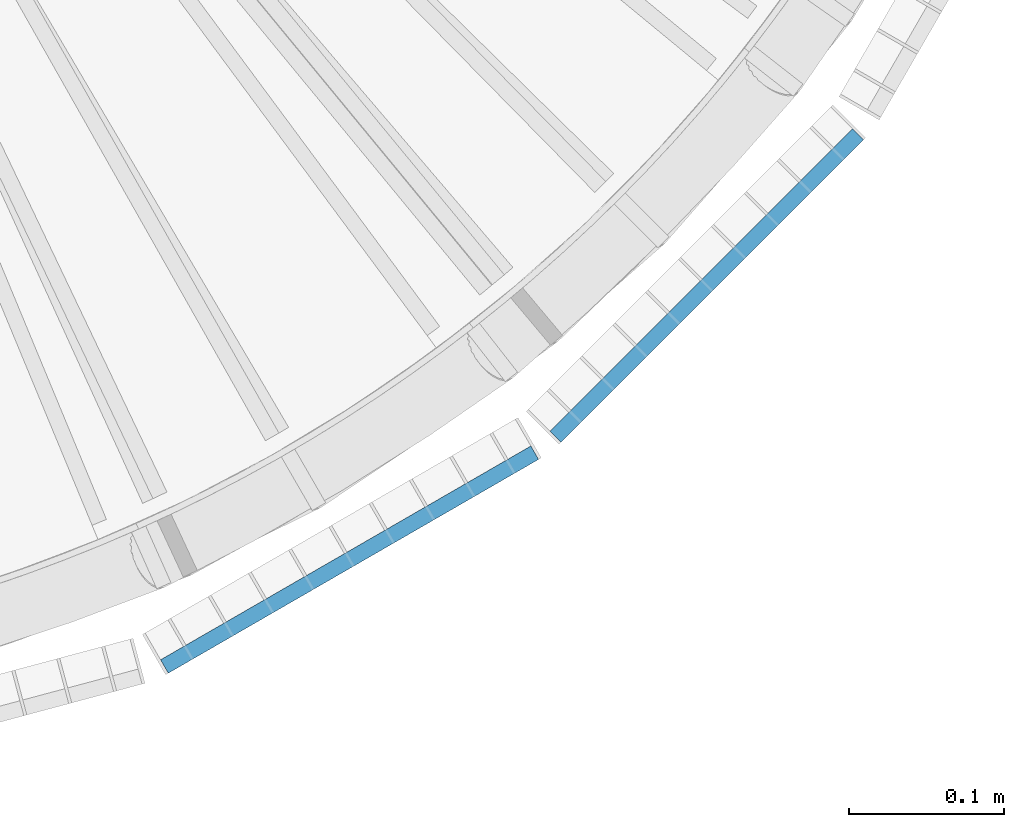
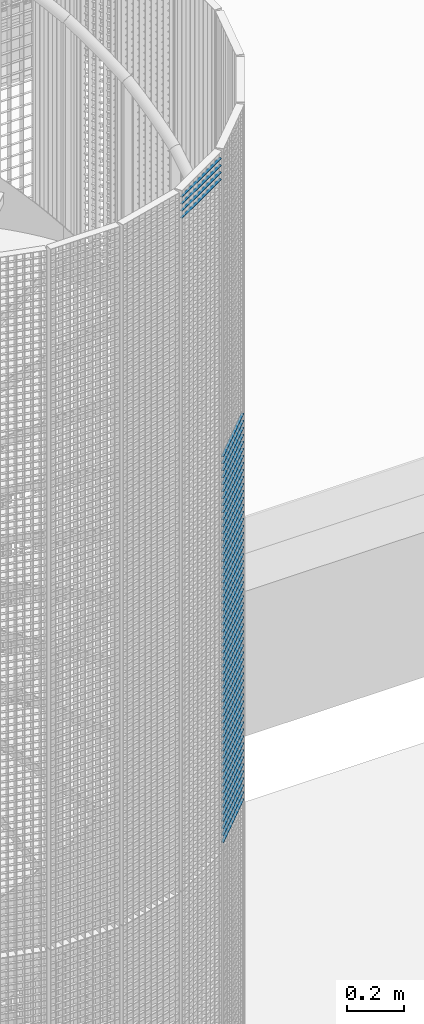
# One storey, part 224 of 1148: 60 beams, 2 elements without a shape of their own.
"""IFC2X3 building model written with IfcOpenShell, lengths in millimetres."""

from ifc_helpers import new_model, si_unit, frame, origin_with_axes, origin_2d_with_axis, place, context, subcontext, project, spatial, rectangle, extrude, material, type_object, element, aggregate, save


model = new_model("IFC2X3")

# Units and contexts
model_context = context("Model", 3, precision=1e-05, world=origin_with_axes())
body_context = subcontext(model_context, "Body", "Model", "MODEL_VIEW")
ifc_project = project(units=[si_unit("LENGTHUNIT", "METRE", prefix="MILLI"), si_unit("AREAUNIT", "SQUARE_METRE"), si_unit("VOLUMEUNIT", "CUBIC_METRE"), si_unit("MASSUNIT", "GRAM", prefix="KILO"), si_unit("TIMEUNIT", "SECOND"), si_unit("PLANEANGLEUNIT", "RADIAN"), si_unit("SOLIDANGLEUNIT", "STERADIAN"), si_unit("THERMODYNAMICTEMPERATUREUNIT", "DEGREE_CELSIUS"), si_unit("LUMINOUSINTENSITYUNIT", "LUMEN")], contexts=[model_context])

# Site, building, storey
site_placement = place(None, origin_with_axes())
site = spatial("IfcSite", under=ifc_project, at=site_placement, Name="Undefined", CompositionType="ELEMENT")
building_placement = place(site_placement, origin_with_axes())
building = spatial("IfcBuilding", under=site, at=building_placement, Name="Undefined", CompositionType="ELEMENT")
storey_placement = place(building_placement, origin_with_axes())
storey = spatial("IfcBuildingStorey", under=building, at=storey_placement, Name="Undefined", CompositionType="ELEMENT", Elevation=0.0)

# Assembly, beams
assembly_1_placement = place(storey_placement, origin_with_axes())
assembly_1 = element("IfcElementAssembly", 1, at=assembly_1_placement, inside=storey, Name="BORDURE", AssemblyPlace="NOTDEFINED", PredefinedType="NOTDEFINED")
ifc_material = material(Name="STEEL/S235JR")
beam_type = type_object("IfcBeamType", Name="PL2*10", PredefinedType="NOTDEFINED")
beam_1_placement = place(assembly_1_placement, frame((689.771348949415, -884.927168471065, 16680.0), z_axis=(0.707106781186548, -0.707106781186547, 0.0), x_axis=(0.707106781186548, 0.707106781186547, 0.0)))
beam_1 = element("IfcBeam", 2, at=beam_1_placement, type_object=beam_type, material=ifc_material, Name="ENTRETOISE", context=body_context, shape_type="SweptSolid", body=[
    extrude(rectangle(XDim=2.0, YDim=10.0, at=origin_2d_with_axis()), frame((275.999999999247, 9.09494701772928e-13, 1.53210777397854e-14), z_axis=(-1.0, 0.0, 0.0), x_axis=(0.0, -1.0, 0.0)), (0.0, 0.0, 1.0), 276.0),
])
beam_2_placement = place(assembly_1_placement, frame((689.771348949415, -884.927168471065, 16650.0), z_axis=(0.707106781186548, -0.707106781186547, 0.0), x_axis=(0.707106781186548, 0.707106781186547, 0.0)))
beam_2 = element("IfcBeam", 3, at=beam_2_placement, type_object=beam_type, material=ifc_material, Name="ENTRETOISE", context=body_context, shape_type="SweptSolid", body=[
    extrude(rectangle(XDim=2.0, YDim=10.0, at=origin_2d_with_axis()), frame((275.999999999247, 9.09494701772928e-13, 1.53210777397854e-14), z_axis=(-1.0, 0.0, 0.0), x_axis=(0.0, -1.0, 0.0)), (0.0, 0.0, 1.0), 276.0),
])
beam_3_placement = place(assembly_1_placement, frame((689.771348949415, -884.927168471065, 16620.0), z_axis=(0.707106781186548, -0.707106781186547, 0.0), x_axis=(0.707106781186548, 0.707106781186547, 0.0)))
beam_3 = element("IfcBeam", 4, at=beam_3_placement, type_object=beam_type, material=ifc_material, Name="ENTRETOISE", context=body_context, shape_type="SweptSolid", body=[
    extrude(rectangle(XDim=2.0, YDim=10.0, at=origin_2d_with_axis()), frame((275.999999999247, 9.09494701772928e-13, 1.53210777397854e-14), z_axis=(-1.0, 0.0, 0.0), x_axis=(0.0, -1.0, 0.0)), (0.0, 0.0, 1.0), 276.0),
])
beam_4_placement = place(assembly_1_placement, frame((689.771348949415, -884.927168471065, 16590.0), z_axis=(0.707106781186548, -0.707106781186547, 0.0), x_axis=(0.707106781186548, 0.707106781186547, 0.0)))
beam_4 = element("IfcBeam", 5, at=beam_4_placement, type_object=beam_type, material=ifc_material, Name="ENTRETOISE", context=body_context, shape_type="SweptSolid", body=[
    extrude(rectangle(XDim=2.0, YDim=10.0, at=origin_2d_with_axis()), frame((275.999999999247, 9.09494701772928e-13, 1.53210777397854e-14), z_axis=(-1.0, 0.0, 0.0), x_axis=(0.0, -1.0, 0.0)), (0.0, 0.0, 1.0), 276.0),
])
beam_5_placement = place(assembly_1_placement, frame((689.771348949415, -884.927168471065, 16560.0), z_axis=(0.707106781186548, -0.707106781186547, 0.0), x_axis=(0.707106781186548, 0.707106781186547, 0.0)))
beam_5 = element("IfcBeam", 6, at=beam_5_placement, type_object=beam_type, material=ifc_material, Name="ENTRETOISE", context=body_context, shape_type="SweptSolid", body=[
    extrude(rectangle(XDim=2.0, YDim=10.0, at=origin_2d_with_axis()), frame((275.999999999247, 9.09494701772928e-13, 1.53210777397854e-14), z_axis=(-1.0, 0.0, 0.0), x_axis=(0.0, -1.0, 0.0)), (0.0, 0.0, 1.0), 276.0),
])
beam_6_placement = place(assembly_1_placement, frame((689.771348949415, -884.927168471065, 16530.0), z_axis=(0.707106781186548, -0.707106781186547, 0.0), x_axis=(0.707106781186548, 0.707106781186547, 0.0)))
beam_6 = element("IfcBeam", 7, at=beam_6_placement, type_object=beam_type, material=ifc_material, Name="ENTRETOISE", context=body_context, shape_type="SweptSolid", body=[
    extrude(rectangle(XDim=2.0, YDim=10.0, at=origin_2d_with_axis()), frame((275.999999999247, 9.09494701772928e-13, 1.53210777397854e-14), z_axis=(-1.0, 0.0, 0.0), x_axis=(0.0, -1.0, 0.0)), (0.0, 0.0, 1.0), 276.0),
])
beam_7_placement = place(assembly_1_placement, frame((689.771348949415, -884.927168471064, 16500.0), z_axis=(0.707106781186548, -0.707106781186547, 0.0), x_axis=(0.707106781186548, 0.707106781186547, 0.0)))
beam_7 = element("IfcBeam", 8, at=beam_7_placement, type_object=beam_type, material=ifc_material, Name="ENTRETOISE", context=body_context, shape_type="SweptSolid", body=[
    extrude(rectangle(XDim=2.0, YDim=10.0, at=origin_2d_with_axis()), frame((275.999999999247, 9.09494701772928e-13, 1.53210777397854e-14), z_axis=(-1.0, 0.0, 0.0), x_axis=(0.0, -1.0, 0.0)), (0.0, 0.0, 1.0), 276.0),
])
beam_8_placement = place(assembly_1_placement, frame((689.771348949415, -884.927168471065, 16470.0), z_axis=(0.707106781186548, -0.707106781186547, 0.0), x_axis=(0.707106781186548, 0.707106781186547, 0.0)))
beam_8 = element("IfcBeam", 9, at=beam_8_placement, type_object=beam_type, material=ifc_material, Name="ENTRETOISE", context=body_context, shape_type="SweptSolid", body=[
    extrude(rectangle(XDim=2.0, YDim=10.0, at=origin_2d_with_axis()), frame((275.999999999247, 9.09494701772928e-13, 1.53210777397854e-14), z_axis=(-1.0, 0.0, 0.0), x_axis=(0.0, -1.0, 0.0)), (0.0, 0.0, 1.0), 276.0),
])
beam_9_placement = place(assembly_1_placement, frame((689.771348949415, -884.927168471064, 16440.0), z_axis=(0.707106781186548, -0.707106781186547, 0.0), x_axis=(0.707106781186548, 0.707106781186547, 0.0)))
beam_9 = element("IfcBeam", 10, at=beam_9_placement, type_object=beam_type, material=ifc_material, Name="ENTRETOISE", context=body_context, shape_type="SweptSolid", body=[
    extrude(rectangle(XDim=2.0, YDim=10.0, at=origin_2d_with_axis()), frame((275.999999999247, 9.09494701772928e-13, 1.53210777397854e-14), z_axis=(-1.0, 0.0, 0.0), x_axis=(0.0, -1.0, 0.0)), (0.0, 0.0, 1.0), 276.0),
])
beam_10_placement = place(assembly_1_placement, frame((689.771348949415, -884.927168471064, 16410.0), z_axis=(0.707106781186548, -0.707106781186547, 0.0), x_axis=(0.707106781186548, 0.707106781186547, 0.0)))
beam_10 = element("IfcBeam", 11, at=beam_10_placement, type_object=beam_type, material=ifc_material, Name="ENTRETOISE", context=body_context, shape_type="SweptSolid", body=[
    extrude(rectangle(XDim=2.0, YDim=10.0, at=origin_2d_with_axis()), frame((275.999999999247, 9.09494701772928e-13, 1.53210777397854e-14), z_axis=(-1.0, 0.0, 0.0), x_axis=(0.0, -1.0, 0.0)), (0.0, 0.0, 1.0), 276.0),
])
beam_11_placement = place(assembly_1_placement, frame((689.771348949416, -884.927168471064, 16380.0), z_axis=(0.707106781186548, -0.707106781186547, 0.0), x_axis=(0.707106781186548, 0.707106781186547, 0.0)))
beam_11 = element("IfcBeam", 12, at=beam_11_placement, type_object=beam_type, material=ifc_material, Name="ENTRETOISE", context=body_context, shape_type="SweptSolid", body=[
    extrude(rectangle(XDim=2.0, YDim=10.0, at=origin_2d_with_axis()), frame((275.999999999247, 9.09494701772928e-13, 1.53210777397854e-14), z_axis=(-1.0, 0.0, 0.0), x_axis=(0.0, -1.0, 0.0)), (0.0, 0.0, 1.0), 276.0),
])
beam_12_placement = place(assembly_1_placement, frame((689.771348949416, -884.927168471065, 16350.0), z_axis=(0.707106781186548, -0.707106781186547, 0.0), x_axis=(0.707106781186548, 0.707106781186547, 0.0)))
beam_12 = element("IfcBeam", 13, at=beam_12_placement, type_object=beam_type, material=ifc_material, Name="ENTRETOISE", context=body_context, shape_type="SweptSolid", body=[
    extrude(rectangle(XDim=2.0, YDim=10.0, at=origin_2d_with_axis()), frame((275.999999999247, 9.09494701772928e-13, 1.53210777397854e-14), z_axis=(-1.0, 0.0, 0.0), x_axis=(0.0, -1.0, 0.0)), (0.0, 0.0, 1.0), 276.0),
])
beam_13_placement = place(assembly_1_placement, frame((689.771348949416, -884.927168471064, 16320.0), z_axis=(0.707106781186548, -0.707106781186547, 0.0), x_axis=(0.707106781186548, 0.707106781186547, 0.0)))
beam_13 = element("IfcBeam", 14, at=beam_13_placement, type_object=beam_type, material=ifc_material, Name="ENTRETOISE", context=body_context, shape_type="SweptSolid", body=[
    extrude(rectangle(XDim=2.0, YDim=10.0, at=origin_2d_with_axis()), frame((275.999999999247, 9.09494701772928e-13, 1.53210777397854e-14), z_axis=(-1.0, 0.0, 0.0), x_axis=(0.0, -1.0, 0.0)), (0.0, 0.0, 1.0), 276.0),
])
beam_14_placement = place(assembly_1_placement, frame((689.771348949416, -884.927168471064, 16290.0), z_axis=(0.707106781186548, -0.707106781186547, 0.0), x_axis=(0.707106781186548, 0.707106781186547, 0.0)))
beam_14 = element("IfcBeam", 15, at=beam_14_placement, type_object=beam_type, material=ifc_material, Name="ENTRETOISE", context=body_context, shape_type="SweptSolid", body=[
    extrude(rectangle(XDim=2.0, YDim=10.0, at=origin_2d_with_axis()), frame((275.999999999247, 9.09494701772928e-13, 1.53210777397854e-14), z_axis=(-1.0, 0.0, 0.0), x_axis=(0.0, -1.0, 0.0)), (0.0, 0.0, 1.0), 276.0),
])
beam_15_placement = place(assembly_1_placement, frame((689.771348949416, -884.927168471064, 16260.0), z_axis=(0.707106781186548, -0.707106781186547, 0.0), x_axis=(0.707106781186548, 0.707106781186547, 0.0)))
beam_15 = element("IfcBeam", 16, at=beam_15_placement, type_object=beam_type, material=ifc_material, Name="ENTRETOISE", context=body_context, shape_type="SweptSolid", body=[
    extrude(rectangle(XDim=2.0, YDim=10.0, at=origin_2d_with_axis()), frame((275.999999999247, 9.09494701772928e-13, 1.53210777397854e-14), z_axis=(-1.0, 0.0, 0.0), x_axis=(0.0, -1.0, 0.0)), (0.0, 0.0, 1.0), 276.0),
])
beam_16_placement = place(assembly_1_placement, frame((689.771348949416, -884.927168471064, 16230.0), z_axis=(0.707106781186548, -0.707106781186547, 0.0), x_axis=(0.707106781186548, 0.707106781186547, 0.0)))
beam_16 = element("IfcBeam", 17, at=beam_16_placement, type_object=beam_type, material=ifc_material, Name="ENTRETOISE", context=body_context, shape_type="SweptSolid", body=[
    extrude(rectangle(XDim=2.0, YDim=10.0, at=origin_2d_with_axis()), frame((275.999999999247, 9.09494701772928e-13, 1.53210777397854e-14), z_axis=(-1.0, 0.0, 0.0), x_axis=(0.0, -1.0, 0.0)), (0.0, 0.0, 1.0), 276.0),
])
beam_17_placement = place(assembly_1_placement, frame((689.771348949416, -884.927168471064, 16200.0), z_axis=(0.707106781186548, -0.707106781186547, 0.0), x_axis=(0.707106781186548, 0.707106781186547, 0.0)))
beam_17 = element("IfcBeam", 18, at=beam_17_placement, type_object=beam_type, material=ifc_material, Name="ENTRETOISE", context=body_context, shape_type="SweptSolid", body=[
    extrude(rectangle(XDim=2.0, YDim=10.0, at=origin_2d_with_axis()), frame((275.999999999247, 9.09494701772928e-13, 1.53210777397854e-14), z_axis=(-1.0, 0.0, 0.0), x_axis=(0.0, -1.0, 0.0)), (0.0, 0.0, 1.0), 276.0),
])
beam_18_placement = place(assembly_1_placement, frame((689.771348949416, -884.927168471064, 16170.0), z_axis=(0.707106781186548, -0.707106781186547, 0.0), x_axis=(0.707106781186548, 0.707106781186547, 0.0)))
beam_18 = element("IfcBeam", 19, at=beam_18_placement, type_object=beam_type, material=ifc_material, Name="ENTRETOISE", context=body_context, shape_type="SweptSolid", body=[
    extrude(rectangle(XDim=2.0, YDim=10.0, at=origin_2d_with_axis()), frame((275.999999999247, 9.09494701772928e-13, 1.53210777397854e-14), z_axis=(-1.0, 0.0, 0.0), x_axis=(0.0, -1.0, 0.0)), (0.0, 0.0, 1.0), 276.0),
])
beam_19_placement = place(assembly_1_placement, frame((689.771348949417, -884.927168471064, 16140.0), z_axis=(0.707106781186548, -0.707106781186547, 0.0), x_axis=(0.707106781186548, 0.707106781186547, 0.0)))
beam_19 = element("IfcBeam", 20, at=beam_19_placement, type_object=beam_type, material=ifc_material, Name="ENTRETOISE", context=body_context, shape_type="SweptSolid", body=[
    extrude(rectangle(XDim=2.0, YDim=10.0, at=origin_2d_with_axis()), frame((275.999999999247, 9.09494701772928e-13, 1.53210777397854e-14), z_axis=(-1.0, 0.0, 0.0), x_axis=(0.0, -1.0, 0.0)), (0.0, 0.0, 1.0), 276.0),
])
beam_20_placement = place(assembly_1_placement, frame((689.771348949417, -884.927168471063, 15720.0), z_axis=(0.707106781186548, -0.707106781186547, 0.0), x_axis=(0.707106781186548, 0.707106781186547, 0.0)))
beam_20 = element("IfcBeam", 21, at=beam_20_placement, type_object=beam_type, material=ifc_material, Name="ENTRETOISE", context=body_context, shape_type="SweptSolid", body=[
    extrude(rectangle(XDim=2.0, YDim=10.0, at=origin_2d_with_axis()), frame((275.999999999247, 9.09494701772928e-13, 1.53210777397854e-14), z_axis=(-1.0, 0.0, 0.0), x_axis=(0.0, -1.0, 0.0)), (0.0, 0.0, 1.0), 276.0),
])
beam_21_placement = place(assembly_1_placement, frame((689.771348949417, -884.927168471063, 15690.0), z_axis=(0.707106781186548, -0.707106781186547, 0.0), x_axis=(0.707106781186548, 0.707106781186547, 0.0)))
beam_21 = element("IfcBeam", 22, at=beam_21_placement, type_object=beam_type, material=ifc_material, Name="ENTRETOISE", context=body_context, shape_type="SweptSolid", body=[
    extrude(rectangle(XDim=2.0, YDim=10.0, at=origin_2d_with_axis()), frame((275.999999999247, 9.09494701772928e-13, 1.53210777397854e-14), z_axis=(-1.0, 0.0, 0.0), x_axis=(0.0, -1.0, 0.0)), (0.0, 0.0, 1.0), 276.0),
])
beam_22_placement = place(assembly_1_placement, frame((689.771348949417, -884.927168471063, 15750.0), z_axis=(0.707106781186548, -0.707106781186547, 0.0), x_axis=(0.707106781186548, 0.707106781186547, 0.0)))
beam_22 = element("IfcBeam", 23, at=beam_22_placement, type_object=beam_type, material=ifc_material, Name="ENTRETOISE", context=body_context, shape_type="SweptSolid", body=[
    extrude(rectangle(XDim=2.0, YDim=10.0, at=origin_2d_with_axis()), frame((275.999999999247, 9.09494701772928e-13, 1.53210777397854e-14), z_axis=(-1.0, 0.0, 0.0), x_axis=(0.0, -1.0, 0.0)), (0.0, 0.0, 1.0), 276.0),
])
beam_23_placement = place(assembly_1_placement, frame((689.771348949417, -884.927168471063, 15660.0), z_axis=(0.707106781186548, -0.707106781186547, 0.0), x_axis=(0.707106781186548, 0.707106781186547, 0.0)))
beam_23 = element("IfcBeam", 24, at=beam_23_placement, type_object=beam_type, material=ifc_material, Name="ENTRETOISE", context=body_context, shape_type="SweptSolid", body=[
    extrude(rectangle(XDim=2.0, YDim=10.0, at=origin_2d_with_axis()), frame((275.999999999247, 9.09494701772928e-13, 1.53210777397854e-14), z_axis=(-1.0, 0.0, 0.0), x_axis=(0.0, -1.0, 0.0)), (0.0, 0.0, 1.0), 276.0),
])
beam_24_placement = place(assembly_1_placement, frame((689.771348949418, -884.927168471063, 15630.0), z_axis=(0.707106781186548, -0.707106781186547, 0.0), x_axis=(0.707106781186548, 0.707106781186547, 0.0)))
beam_24 = element("IfcBeam", 25, at=beam_24_placement, type_object=beam_type, material=ifc_material, Name="ENTRETOISE", context=body_context, shape_type="SweptSolid", body=[
    extrude(rectangle(XDim=2.0, YDim=10.0, at=origin_2d_with_axis()), frame((275.999999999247, 9.09494701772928e-13, 1.53210777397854e-14), z_axis=(-1.0, 0.0, 0.0), x_axis=(0.0, -1.0, 0.0)), (0.0, 0.0, 1.0), 276.0),
])
beam_25_placement = place(assembly_1_placement, frame((689.771348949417, -884.927168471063, 15780.0), z_axis=(0.707106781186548, -0.707106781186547, 0.0), x_axis=(0.707106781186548, 0.707106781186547, 0.0)))
beam_25 = element("IfcBeam", 26, at=beam_25_placement, type_object=beam_type, material=ifc_material, Name="ENTRETOISE", context=body_context, shape_type="SweptSolid", body=[
    extrude(rectangle(XDim=2.0, YDim=10.0, at=origin_2d_with_axis()), frame((275.999999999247, 9.09494701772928e-13, 1.53210777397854e-14), z_axis=(-1.0, 0.0, 0.0), x_axis=(0.0, -1.0, 0.0)), (0.0, 0.0, 1.0), 276.0),
])
beam_26_placement = place(assembly_1_placement, frame((689.771348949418, -884.927168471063, 15600.0), z_axis=(0.707106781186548, -0.707106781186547, 0.0), x_axis=(0.707106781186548, 0.707106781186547, 0.0)))
beam_26 = element("IfcBeam", 27, at=beam_26_placement, type_object=beam_type, material=ifc_material, Name="ENTRETOISE", context=body_context, shape_type="SweptSolid", body=[
    extrude(rectangle(XDim=2.0, YDim=10.0, at=origin_2d_with_axis()), frame((275.999999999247, 9.09494701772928e-13, 1.53210777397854e-14), z_axis=(-1.0, 0.0, 0.0), x_axis=(0.0, -1.0, 0.0)), (0.0, 0.0, 1.0), 276.0),
])
beam_27_placement = place(assembly_1_placement, frame((689.771348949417, -884.927168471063, 15810.0), z_axis=(0.707106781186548, -0.707106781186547, 0.0), x_axis=(0.707106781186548, 0.707106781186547, 0.0)))
beam_27 = element("IfcBeam", 28, at=beam_27_placement, type_object=beam_type, material=ifc_material, Name="ENTRETOISE", context=body_context, shape_type="SweptSolid", body=[
    extrude(rectangle(XDim=2.0, YDim=10.0, at=origin_2d_with_axis()), frame((275.999999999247, 9.09494701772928e-13, 1.53210777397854e-14), z_axis=(-1.0, 0.0, 0.0), x_axis=(0.0, -1.0, 0.0)), (0.0, 0.0, 1.0), 276.0),
])
beam_28_placement = place(assembly_1_placement, frame((689.771348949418, -884.927168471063, 15570.0), z_axis=(0.707106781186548, -0.707106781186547, 0.0), x_axis=(0.707106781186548, 0.707106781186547, 0.0)))
beam_28 = element("IfcBeam", 29, at=beam_28_placement, type_object=beam_type, material=ifc_material, Name="ENTRETOISE", context=body_context, shape_type="SweptSolid", body=[
    extrude(rectangle(XDim=2.0, YDim=10.0, at=origin_2d_with_axis()), frame((275.999999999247, 9.09494701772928e-13, 1.53210777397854e-14), z_axis=(-1.0, 0.0, 0.0), x_axis=(0.0, -1.0, 0.0)), (0.0, 0.0, 1.0), 276.0),
])
beam_29_placement = place(assembly_1_placement, frame((689.771348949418, -884.927168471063, 15540.0), z_axis=(0.707106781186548, -0.707106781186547, 0.0), x_axis=(0.707106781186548, 0.707106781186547, 0.0)))
beam_29 = element("IfcBeam", 30, at=beam_29_placement, type_object=beam_type, material=ifc_material, Name="ENTRETOISE", context=body_context, shape_type="SweptSolid", body=[
    extrude(rectangle(XDim=2.0, YDim=10.0, at=origin_2d_with_axis()), frame((275.999999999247, 9.09494701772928e-13, 1.53210777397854e-14), z_axis=(-1.0, 0.0, 0.0), x_axis=(0.0, -1.0, 0.0)), (0.0, 0.0, 1.0), 276.0),
])
beam_30_placement = place(assembly_1_placement, frame((689.771348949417, -884.927168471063, 15840.0), z_axis=(0.707106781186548, -0.707106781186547, 0.0), x_axis=(0.707106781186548, 0.707106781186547, 0.0)))
beam_30 = element("IfcBeam", 31, at=beam_30_placement, type_object=beam_type, material=ifc_material, Name="ENTRETOISE", context=body_context, shape_type="SweptSolid", body=[
    extrude(rectangle(XDim=2.0, YDim=10.0, at=origin_2d_with_axis()), frame((275.999999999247, 9.09494701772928e-13, 1.53210777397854e-14), z_axis=(-1.0, 0.0, 0.0), x_axis=(0.0, -1.0, 0.0)), (0.0, 0.0, 1.0), 276.0),
])
beam_31_placement = place(assembly_1_placement, frame((689.771348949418, -884.927168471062, 15510.0), z_axis=(0.707106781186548, -0.707106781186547, 0.0), x_axis=(0.707106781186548, 0.707106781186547, 0.0)))
beam_31 = element("IfcBeam", 32, at=beam_31_placement, type_object=beam_type, material=ifc_material, Name="ENTRETOISE", context=body_context, shape_type="SweptSolid", body=[
    extrude(rectangle(XDim=2.0, YDim=10.0, at=origin_2d_with_axis()), frame((275.999999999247, 9.09494701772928e-13, 1.53210777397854e-14), z_axis=(-1.0, 0.0, 0.0), x_axis=(0.0, -1.0, 0.0)), (0.0, 0.0, 1.0), 276.0),
])
beam_32_placement = place(assembly_1_placement, frame((689.771348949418, -884.927168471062, 15480.0), z_axis=(0.707106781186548, -0.707106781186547, 0.0), x_axis=(0.707106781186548, 0.707106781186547, 0.0)))
beam_32 = element("IfcBeam", 33, at=beam_32_placement, type_object=beam_type, material=ifc_material, Name="ENTRETOISE", context=body_context, shape_type="SweptSolid", body=[
    extrude(rectangle(XDim=2.0, YDim=10.0, at=origin_2d_with_axis()), frame((275.999999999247, 9.09494701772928e-13, 1.53210777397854e-14), z_axis=(-1.0, 0.0, 0.0), x_axis=(0.0, -1.0, 0.0)), (0.0, 0.0, 1.0), 276.0),
])
beam_33_placement = place(assembly_1_placement, frame((689.771348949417, -884.927168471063, 15870.0), z_axis=(0.707106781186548, -0.707106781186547, 0.0), x_axis=(0.707106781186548, 0.707106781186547, 0.0)))
beam_33 = element("IfcBeam", 34, at=beam_33_placement, type_object=beam_type, material=ifc_material, Name="ENTRETOISE", context=body_context, shape_type="SweptSolid", body=[
    extrude(rectangle(XDim=2.0, YDim=10.0, at=origin_2d_with_axis()), frame((275.999999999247, 9.09494701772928e-13, 1.53210777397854e-14), z_axis=(-1.0, 0.0, 0.0), x_axis=(0.0, -1.0, 0.0)), (0.0, 0.0, 1.0), 276.0),
])
beam_34_placement = place(assembly_1_placement, frame((689.771348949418, -884.927168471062, 15450.0), z_axis=(0.707106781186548, -0.707106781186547, 0.0), x_axis=(0.707106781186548, 0.707106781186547, 0.0)))
beam_34 = element("IfcBeam", 35, at=beam_34_placement, type_object=beam_type, material=ifc_material, Name="ENTRETOISE", context=body_context, shape_type="SweptSolid", body=[
    extrude(rectangle(XDim=2.0, YDim=10.0, at=origin_2d_with_axis()), frame((275.999999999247, 9.09494701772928e-13, 1.53210777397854e-14), z_axis=(-1.0, 0.0, 0.0), x_axis=(0.0, -1.0, 0.0)), (0.0, 0.0, 1.0), 276.0),
])
beam_35_placement = place(assembly_1_placement, frame((689.771348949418, -884.927168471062, 15420.0), z_axis=(0.707106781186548, -0.707106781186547, 0.0), x_axis=(0.707106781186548, 0.707106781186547, 0.0)))
beam_35 = element("IfcBeam", 36, at=beam_35_placement, type_object=beam_type, material=ifc_material, Name="ENTRETOISE", context=body_context, shape_type="SweptSolid", body=[
    extrude(rectangle(XDim=2.0, YDim=10.0, at=origin_2d_with_axis()), frame((275.999999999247, 9.09494701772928e-13, 1.53210777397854e-14), z_axis=(-1.0, 0.0, 0.0), x_axis=(0.0, -1.0, 0.0)), (0.0, 0.0, 1.0), 276.0),
])
beam_36_placement = place(assembly_1_placement, frame((689.771348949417, -884.927168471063, 15900.0), z_axis=(0.707106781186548, -0.707106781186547, 0.0), x_axis=(0.707106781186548, 0.707106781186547, 0.0)))
beam_36 = element("IfcBeam", 37, at=beam_36_placement, type_object=beam_type, material=ifc_material, Name="ENTRETOISE", context=body_context, shape_type="SweptSolid", body=[
    extrude(rectangle(XDim=2.0, YDim=10.0, at=origin_2d_with_axis()), frame((275.999999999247, 9.09494701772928e-13, 1.53210777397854e-14), z_axis=(-1.0, 0.0, 0.0), x_axis=(0.0, -1.0, 0.0)), (0.0, 0.0, 1.0), 276.0),
])
beam_37_placement = place(assembly_1_placement, frame((689.771348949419, -884.927168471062, 15390.0), z_axis=(0.707106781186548, -0.707106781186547, 0.0), x_axis=(0.707106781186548, 0.707106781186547, 0.0)))
beam_37 = element("IfcBeam", 38, at=beam_37_placement, type_object=beam_type, material=ifc_material, Name="ENTRETOISE", context=body_context, shape_type="SweptSolid", body=[
    extrude(rectangle(XDim=2.0, YDim=10.0, at=origin_2d_with_axis()), frame((275.999999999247, 9.09494701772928e-13, 1.53210777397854e-14), z_axis=(-1.0, 0.0, 0.0), x_axis=(0.0, -1.0, 0.0)), (0.0, 0.0, 1.0), 276.0),
])
beam_38_placement = place(assembly_1_placement, frame((689.771348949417, -884.927168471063, 15930.0), z_axis=(0.707106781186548, -0.707106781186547, 0.0), x_axis=(0.707106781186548, 0.707106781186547, 0.0)))
beam_38 = element("IfcBeam", 39, at=beam_38_placement, type_object=beam_type, material=ifc_material, Name="ENTRETOISE", context=body_context, shape_type="SweptSolid", body=[
    extrude(rectangle(XDim=2.0, YDim=10.0, at=origin_2d_with_axis()), frame((275.999999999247, 9.09494701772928e-13, 1.53210777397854e-14), z_axis=(-1.0, 0.0, 0.0), x_axis=(0.0, -1.0, 0.0)), (0.0, 0.0, 1.0), 276.0),
])
beam_39_placement = place(assembly_1_placement, frame((689.771348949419, -884.927168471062, 15360.0), z_axis=(0.707106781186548, -0.707106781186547, 0.0), x_axis=(0.707106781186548, 0.707106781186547, 0.0)))
beam_39 = element("IfcBeam", 40, at=beam_39_placement, type_object=beam_type, material=ifc_material, Name="ENTRETOISE", context=body_context, shape_type="SweptSolid", body=[
    extrude(rectangle(XDim=2.0, YDim=10.0, at=origin_2d_with_axis()), frame((275.999999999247, 9.09494701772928e-13, 1.53210777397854e-14), z_axis=(-1.0, 0.0, 0.0), x_axis=(0.0, -1.0, 0.0)), (0.0, 0.0, 1.0), 276.0),
])
beam_40_placement = place(assembly_1_placement, frame((689.771348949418, -884.927168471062, 15330.0), z_axis=(0.707106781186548, -0.707106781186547, 0.0), x_axis=(0.707106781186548, 0.707106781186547, 0.0)))
beam_40 = element("IfcBeam", 41, at=beam_40_placement, type_object=beam_type, material=ifc_material, Name="ENTRETOISE", context=body_context, shape_type="SweptSolid", body=[
    extrude(rectangle(XDim=2.0, YDim=10.0, at=origin_2d_with_axis()), frame((275.999999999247, 9.09494701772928e-13, 1.53210777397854e-14), z_axis=(-1.0, 0.0, 0.0), x_axis=(0.0, -1.0, 0.0)), (0.0, 0.0, 1.0), 276.0),
])
beam_41_placement = place(assembly_1_placement, frame((689.771348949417, -884.927168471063, 15960.0), z_axis=(0.707106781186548, -0.707106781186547, 0.0), x_axis=(0.707106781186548, 0.707106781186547, 0.0)))
beam_41 = element("IfcBeam", 42, at=beam_41_placement, type_object=beam_type, material=ifc_material, Name="ENTRETOISE", context=body_context, shape_type="SweptSolid", body=[
    extrude(rectangle(XDim=2.0, YDim=10.0, at=origin_2d_with_axis()), frame((275.999999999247, 9.09494701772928e-13, 1.53210777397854e-14), z_axis=(-1.0, 0.0, 0.0), x_axis=(0.0, -1.0, 0.0)), (0.0, 0.0, 1.0), 276.0),
])
beam_42_placement = place(assembly_1_placement, frame((689.771348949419, -884.927168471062, 15300.0), z_axis=(0.707106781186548, -0.707106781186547, 0.0), x_axis=(0.707106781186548, 0.707106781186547, 0.0)))
beam_42 = element("IfcBeam", 43, at=beam_42_placement, type_object=beam_type, material=ifc_material, Name="ENTRETOISE", context=body_context, shape_type="SweptSolid", body=[
    extrude(rectangle(XDim=2.0, YDim=10.0, at=origin_2d_with_axis()), frame((275.999999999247, 9.09494701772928e-13, 1.53210777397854e-14), z_axis=(-1.0, 0.0, 0.0), x_axis=(0.0, -1.0, 0.0)), (0.0, 0.0, 1.0), 276.0),
])
beam_43_placement = place(assembly_1_placement, frame((689.771348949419, -884.927168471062, 15270.0), z_axis=(0.707106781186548, -0.707106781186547, 0.0), x_axis=(0.707106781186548, 0.707106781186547, 0.0)))
beam_43 = element("IfcBeam", 44, at=beam_43_placement, type_object=beam_type, material=ifc_material, Name="ENTRETOISE", context=body_context, shape_type="SweptSolid", body=[
    extrude(rectangle(XDim=2.0, YDim=10.0, at=origin_2d_with_axis()), frame((275.999999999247, 9.09494701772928e-13, 1.53210777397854e-14), z_axis=(-1.0, 0.0, 0.0), x_axis=(0.0, -1.0, 0.0)), (0.0, 0.0, 1.0), 276.0),
])
beam_44_placement = place(assembly_1_placement, frame((689.771348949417, -884.927168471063, 15990.0), z_axis=(0.707106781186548, -0.707106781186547, 0.0), x_axis=(0.707106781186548, 0.707106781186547, 0.0)))
beam_44 = element("IfcBeam", 45, at=beam_44_placement, type_object=beam_type, material=ifc_material, Name="ENTRETOISE", context=body_context, shape_type="SweptSolid", body=[
    extrude(rectangle(XDim=2.0, YDim=10.0, at=origin_2d_with_axis()), frame((275.999999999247, 9.09494701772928e-13, 1.53210777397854e-14), z_axis=(-1.0, 0.0, 0.0), x_axis=(0.0, -1.0, 0.0)), (0.0, 0.0, 1.0), 276.0),
])
beam_45_placement = place(assembly_1_placement, frame((689.771348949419, -884.927168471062, 15240.0), z_axis=(0.707106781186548, -0.707106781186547, 0.0), x_axis=(0.707106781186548, 0.707106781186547, 0.0)))
beam_45 = element("IfcBeam", 46, at=beam_45_placement, type_object=beam_type, material=ifc_material, Name="ENTRETOISE", context=body_context, shape_type="SweptSolid", body=[
    extrude(rectangle(XDim=2.0, YDim=10.0, at=origin_2d_with_axis()), frame((275.999999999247, 9.09494701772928e-13, 1.53210777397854e-14), z_axis=(-1.0, 0.0, 0.0), x_axis=(0.0, -1.0, 0.0)), (0.0, 0.0, 1.0), 276.0),
])
beam_46_placement = place(assembly_1_placement, frame((689.771348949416, -884.927168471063, 16020.0), z_axis=(0.707106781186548, -0.707106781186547, 0.0), x_axis=(0.707106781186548, 0.707106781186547, 0.0)))
beam_46 = element("IfcBeam", 47, at=beam_46_placement, type_object=beam_type, material=ifc_material, Name="ENTRETOISE", context=body_context, shape_type="SweptSolid", body=[
    extrude(rectangle(XDim=2.0, YDim=10.0, at=origin_2d_with_axis()), frame((275.999999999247, 9.09494701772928e-13, 1.53210777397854e-14), z_axis=(-1.0, 0.0, 0.0), x_axis=(0.0, -1.0, 0.0)), (0.0, 0.0, 1.0), 276.0),
])
beam_47_placement = place(assembly_1_placement, frame((689.771348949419, -884.927168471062, 15210.0), z_axis=(0.707106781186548, -0.707106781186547, 0.0), x_axis=(0.707106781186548, 0.707106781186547, 0.0)))
beam_47 = element("IfcBeam", 48, at=beam_47_placement, type_object=beam_type, material=ifc_material, Name="ENTRETOISE", context=body_context, shape_type="SweptSolid", body=[
    extrude(rectangle(XDim=2.0, YDim=10.0, at=origin_2d_with_axis()), frame((275.999999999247, 9.09494701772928e-13, 1.53210777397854e-14), z_axis=(-1.0, 0.0, 0.0), x_axis=(0.0, -1.0, 0.0)), (0.0, 0.0, 1.0), 276.0),
])
beam_48_placement = place(assembly_1_placement, frame((689.771348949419, -884.927168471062, 15180.0), z_axis=(0.707106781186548, -0.707106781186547, 0.0), x_axis=(0.707106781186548, 0.707106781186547, 0.0)))
beam_48 = element("IfcBeam", 49, at=beam_48_placement, type_object=beam_type, material=ifc_material, Name="ENTRETOISE", context=body_context, shape_type="SweptSolid", body=[
    extrude(rectangle(XDim=2.0, YDim=10.0, at=origin_2d_with_axis()), frame((275.999999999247, 9.09494701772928e-13, 1.53210777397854e-14), z_axis=(-1.0, 0.0, 0.0), x_axis=(0.0, -1.0, 0.0)), (0.0, 0.0, 1.0), 276.0),
])
beam_49_placement = place(assembly_1_placement, frame((689.771348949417, -884.927168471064, 16050.0), z_axis=(0.707106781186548, -0.707106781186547, 0.0), x_axis=(0.707106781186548, 0.707106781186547, 0.0)))
beam_49 = element("IfcBeam", 50, at=beam_49_placement, type_object=beam_type, material=ifc_material, Name="ENTRETOISE", context=body_context, shape_type="SweptSolid", body=[
    extrude(rectangle(XDim=2.0, YDim=10.0, at=origin_2d_with_axis()), frame((275.999999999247, 9.09494701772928e-13, 1.53210777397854e-14), z_axis=(-1.0, 0.0, 0.0), x_axis=(0.0, -1.0, 0.0)), (0.0, 0.0, 1.0), 276.0),
])
beam_50_placement = place(assembly_1_placement, frame((689.771348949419, -884.927168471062, 15150.0), z_axis=(0.707106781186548, -0.707106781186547, 0.0), x_axis=(0.707106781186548, 0.707106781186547, 0.0)))
beam_50 = element("IfcBeam", 51, at=beam_50_placement, type_object=beam_type, material=ifc_material, Name="ENTRETOISE", context=body_context, shape_type="SweptSolid", body=[
    extrude(rectangle(XDim=2.0, YDim=10.0, at=origin_2d_with_axis()), frame((275.999999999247, 9.09494701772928e-13, 1.53210777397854e-14), z_axis=(-1.0, 0.0, 0.0), x_axis=(0.0, -1.0, 0.0)), (0.0, 0.0, 1.0), 276.0),
])
beam_51_placement = place(assembly_1_placement, frame((689.771348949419, -884.927168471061, 15120.0), z_axis=(0.707106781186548, -0.707106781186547, 0.0), x_axis=(0.707106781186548, 0.707106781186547, 0.0)))
beam_51 = element("IfcBeam", 52, at=beam_51_placement, type_object=beam_type, material=ifc_material, Name="ENTRETOISE", context=body_context, shape_type="SweptSolid", body=[
    extrude(rectangle(XDim=2.0, YDim=10.0, at=origin_2d_with_axis()), frame((275.999999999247, 9.09494701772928e-13, 1.53210777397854e-14), z_axis=(-1.0, 0.0, 0.0), x_axis=(0.0, -1.0, 0.0)), (0.0, 0.0, 1.0), 276.0),
])
beam_52_placement = place(assembly_1_placement, frame((689.771348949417, -884.927168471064, 16080.0), z_axis=(0.707106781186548, -0.707106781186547, 0.0), x_axis=(0.707106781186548, 0.707106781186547, 0.0)))
beam_52 = element("IfcBeam", 53, at=beam_52_placement, type_object=beam_type, material=ifc_material, Name="ENTRETOISE", context=body_context, shape_type="SweptSolid", body=[
    extrude(rectangle(XDim=2.0, YDim=10.0, at=origin_2d_with_axis()), frame((275.999999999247, 9.09494701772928e-13, 1.53210777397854e-14), z_axis=(-1.0, 0.0, 0.0), x_axis=(0.0, -1.0, 0.0)), (0.0, 0.0, 1.0), 276.0),
])
beam_53_placement = place(assembly_1_placement, frame((689.771348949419, -884.927168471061, 15090.0), z_axis=(0.707106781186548, -0.707106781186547, 0.0), x_axis=(0.707106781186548, 0.707106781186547, 0.0)))
beam_53 = element("IfcBeam", 54, at=beam_53_placement, type_object=beam_type, material=ifc_material, Name="ENTRETOISE", context=body_context, shape_type="SweptSolid", body=[
    extrude(rectangle(XDim=2.0, YDim=10.0, at=origin_2d_with_axis()), frame((275.999999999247, 9.09494701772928e-13, 1.53210777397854e-14), z_axis=(-1.0, 0.0, 0.0), x_axis=(0.0, -1.0, 0.0)), (0.0, 0.0, 1.0), 276.0),
])
beam_54_placement = place(assembly_1_placement, frame((689.771348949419, -884.927168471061, 15060.0), z_axis=(0.707106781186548, -0.707106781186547, 0.0), x_axis=(0.707106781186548, 0.707106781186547, 0.0)))
beam_54 = element("IfcBeam", 55, at=beam_54_placement, type_object=beam_type, material=ifc_material, Name="ENTRETOISE", context=body_context, shape_type="SweptSolid", body=[
    extrude(rectangle(XDim=2.0, YDim=10.0, at=origin_2d_with_axis()), frame((275.999999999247, 9.09494701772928e-13, 1.53210777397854e-14), z_axis=(-1.0, 0.0, 0.0), x_axis=(0.0, -1.0, 0.0)), (0.0, 0.0, 1.0), 276.0),
])
beam_55_placement = place(assembly_1_placement, frame((689.771348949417, -884.927168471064, 16110.0), z_axis=(0.707106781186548, -0.707106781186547, 0.0), x_axis=(0.707106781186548, 0.707106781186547, 0.0)))
beam_55 = element("IfcBeam", 56, at=beam_55_placement, type_object=beam_type, material=ifc_material, Name="ENTRETOISE", context=body_context, shape_type="SweptSolid", body=[
    extrude(rectangle(XDim=2.0, YDim=10.0, at=origin_2d_with_axis()), frame((275.999999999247, 9.09494701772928e-13, 1.53210777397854e-14), z_axis=(-1.0, 0.0, 0.0), x_axis=(0.0, -1.0, 0.0)), (0.0, 0.0, 1.0), 276.0),
])
beam_56_placement = place(assembly_1_placement, frame((689.77134894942, -884.92716847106, 15030.0), z_axis=(0.707106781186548, -0.707106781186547, 0.0), x_axis=(0.707106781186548, 0.707106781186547, 0.0)))
beam_56 = element("IfcBeam", 57, at=beam_56_placement, type_object=beam_type, material=ifc_material, Name="ENTRETOISE", context=body_context, shape_type="SweptSolid", body=[
    extrude(rectangle(XDim=2.0, YDim=10.0, at=origin_2d_with_axis()), frame((275.999999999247, 9.09494701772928e-13, 1.53210777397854e-14), z_axis=(-1.0, 0.0, 0.0), x_axis=(0.0, -1.0, 0.0)), (0.0, 0.0, 1.0), 276.0),
])
aggregate(assembly_1, [beam_1, beam_2, beam_3, beam_4, beam_5, beam_6, beam_7, beam_8, beam_9, beam_10, beam_11, beam_12, beam_13, beam_14, beam_15, beam_16, beam_17, beam_18, beam_19, beam_20, beam_21, beam_22, beam_23, beam_24, beam_25, beam_26, beam_27, beam_28, beam_29, beam_30, beam_31, beam_32, beam_33, beam_34, beam_35, beam_36, beam_37, beam_38, beam_39, beam_40, beam_41, beam_42, beam_43, beam_44, beam_45, beam_46, beam_47, beam_48, beam_49, beam_50, beam_51, beam_52, beam_53, beam_54, beam_55, beam_56])

assembly_2_placement = place(storey_placement, origin_with_axes())
assembly_2 = element("IfcElementAssembly", 58, at=assembly_2_placement, inside=storey, Name="BORDURE", AssemblyPlace="NOTDEFINED", PredefinedType="NOTDEFINED")
beam_57_placement = place(assembly_2_placement, frame((437.231955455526, -1033.29996828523, 17970.0), z_axis=(0.499999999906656, -0.866025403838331, 0.0), x_axis=(0.866025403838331, 0.499999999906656, 0.0)))
beam_57 = element("IfcBeam", 59, at=beam_57_placement, type_object=beam_type, material=ifc_material, Name="ENTRETOISE", context=body_context, shape_type="SweptSolid", body=[
    extrude(rectangle(XDim=2.0, YDim=10.0, at=origin_2d_with_axis()), frame((275.999999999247, 9.09494701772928e-13, 1.53210777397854e-14), z_axis=(-1.0, 0.0, 0.0), x_axis=(0.0, -1.0, 0.0)), (0.0, 0.0, 1.0), 276.0),
])
beam_58_placement = place(assembly_2_placement, frame((437.231955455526, -1033.29996828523, 17940.0), z_axis=(0.499999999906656, -0.866025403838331, 0.0), x_axis=(0.866025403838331, 0.499999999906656, 0.0)))
beam_58 = element("IfcBeam", 60, at=beam_58_placement, type_object=beam_type, material=ifc_material, Name="ENTRETOISE", context=body_context, shape_type="SweptSolid", body=[
    extrude(rectangle(XDim=2.0, YDim=10.0, at=origin_2d_with_axis()), frame((275.999999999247, 9.09494701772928e-13, 1.53210777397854e-14), z_axis=(-1.0, 0.0, 0.0), x_axis=(0.0, -1.0, 0.0)), (0.0, 0.0, 1.0), 276.0),
])
beam_59_placement = place(assembly_2_placement, frame((437.231955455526, -1033.29996828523, 17910.0), z_axis=(0.499999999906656, -0.866025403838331, 0.0), x_axis=(0.866025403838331, 0.499999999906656, 0.0)))
beam_59 = element("IfcBeam", 61, at=beam_59_placement, type_object=beam_type, material=ifc_material, Name="ENTRETOISE", context=body_context, shape_type="SweptSolid", body=[
    extrude(rectangle(XDim=2.0, YDim=10.0, at=origin_2d_with_axis()), frame((275.999999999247, 9.09494701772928e-13, 1.53210777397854e-14), z_axis=(-1.0, 0.0, 0.0), x_axis=(0.0, -1.0, 0.0)), (0.0, 0.0, 1.0), 276.0),
])
beam_60_placement = place(assembly_2_placement, frame((437.231955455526, -1033.29996828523, 17880.0), z_axis=(0.499999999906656, -0.866025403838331, 0.0), x_axis=(0.866025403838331, 0.499999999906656, 0.0)))
beam_60 = element("IfcBeam", 62, at=beam_60_placement, type_object=beam_type, material=ifc_material, Name="ENTRETOISE", context=body_context, shape_type="SweptSolid", body=[
    extrude(rectangle(XDim=2.0, YDim=10.0, at=origin_2d_with_axis()), frame((275.999999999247, 9.09494701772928e-13, 1.53210777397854e-14), z_axis=(-1.0, 0.0, 0.0), x_axis=(0.0, -1.0, 0.0)), (0.0, 0.0, 1.0), 276.0),
])
aggregate(assembly_2, [beam_57, beam_58, beam_59, beam_60])

save(model, "model.ifc")
